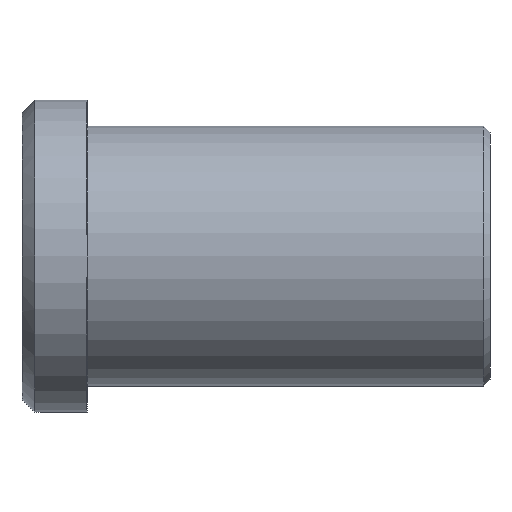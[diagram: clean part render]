
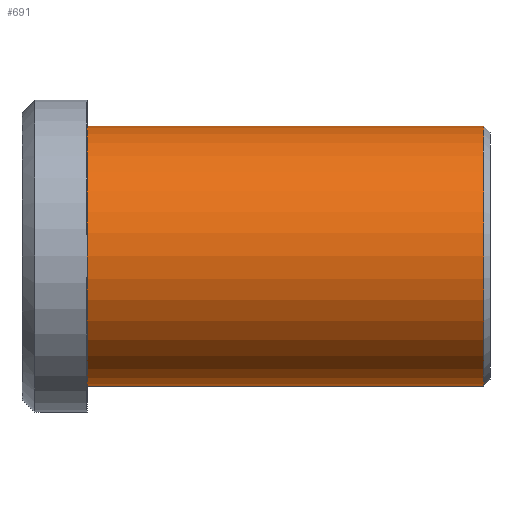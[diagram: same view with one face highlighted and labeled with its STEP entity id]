
A CAD part, front view. The second image highlights one B-rep face of the part: STEP entity #691.
In plain terms, the highlighted cylindrical face has radius 10 mm (diameter 20 mm), a partial arc.
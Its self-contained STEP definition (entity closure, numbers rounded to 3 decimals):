
#501=CARTESIAN_POINT('Vertex',(0.,0.,-10.)) ;
#506=CARTESIAN_POINT('Axis2P3D Location',(0.,0.,0.)) ;
#510=CARTESIAN_POINT('Vertex',(0.,-10.,0.)) ;
#513=CARTESIAN_POINT('Axis2P3D Location',(0.,0.,0.)) ;
#517=CARTESIAN_POINT('Vertex',(0.,0.,10.)) ;
#631=CARTESIAN_POINT('Line Origine',(31.,0.,10.)) ;
#635=CARTESIAN_POINT('Vertex',(30.5,0.,10.)) ;
#649=CARTESIAN_POINT('Vertex',(30.5,0.,-10.)) ;
#652=CARTESIAN_POINT('Line Origine',(31.,0.,-10.)) ;
#666=CARTESIAN_POINT('Axis2P3D Location',(31.,0.,0.)) ;
#671=CARTESIAN_POINT('Axis2P3D Location',(30.5,0.,0.)) ;
#675=CARTESIAN_POINT('Vertex',(30.5,-10.,0.)) ;
#678=CARTESIAN_POINT('Axis2P3D Location',(30.5,0.,0.)) ;
#507=DIRECTION('Axis2P3D Direction',(1.,0.,-0.)) ;
#514=DIRECTION('Axis2P3D Direction',(1.,0.,-0.)) ;
#632=DIRECTION('Vector Direction',(-1.,0.,0.)) ;
#653=DIRECTION('Vector Direction',(-1.,0.,0.)) ;
#667=DIRECTION('Axis2P3D Direction',(-1.,-0.,-0.)) ;
#668=DIRECTION('Axis2P3D XDirection',(0.,0.,-1.)) ;
#672=DIRECTION('Axis2P3D Direction',(-1.,-0.,-0.)) ;
#679=DIRECTION('Axis2P3D Direction',(-1.,-0.,-0.)) ;
#508=AXIS2_PLACEMENT_3D('Circle Axis2P3D',#506,#507,$) ;
#515=AXIS2_PLACEMENT_3D('Circle Axis2P3D',#513,#514,$) ;
#669=AXIS2_PLACEMENT_3D('Cylinder Axis2P3D',#666,#667,#668) ;
#673=AXIS2_PLACEMENT_3D('Circle Axis2P3D',#671,#672,$) ;
#680=AXIS2_PLACEMENT_3D('Circle Axis2P3D',#678,#679,$) ;
#684=ORIENTED_EDGE('',*,*,#656,.T.) ;
#685=ORIENTED_EDGE('',*,*,#677,.F.) ;
#686=ORIENTED_EDGE('',*,*,#682,.F.) ;
#687=ORIENTED_EDGE('',*,*,#637,.T.) ;
#688=ORIENTED_EDGE('',*,*,#519,.T.) ;
#689=ORIENTED_EDGE('',*,*,#512,.T.) ;
#633=VECTOR('Line Direction',#632,1.) ;
#654=VECTOR('Line Direction',#653,1.) ;
#691=ADVANCED_FACE('353-14X36',(#690),#670,.T.) ;
#509=CIRCLE('generated circle',#508,10.) ;
#516=CIRCLE('generated circle',#515,10.) ;
#674=CIRCLE('generated circle',#673,10.) ;
#681=CIRCLE('generated circle',#680,10.) ;
#670=CYLINDRICAL_SURFACE('generated cylinder',#669,10.) ;
#512=EDGE_CURVE('',#511,#502,#509,.T.) ;
#519=EDGE_CURVE('',#518,#511,#516,.T.) ;
#637=EDGE_CURVE('',#636,#518,#634,.T.) ;
#656=EDGE_CURVE('',#502,#650,#655,.F.) ;
#677=EDGE_CURVE('',#676,#650,#674,.F.) ;
#682=EDGE_CURVE('',#636,#676,#681,.F.) ;
#683=EDGE_LOOP('',(#684,#685,#686,#687,#688,#689)) ;
#690=FACE_OUTER_BOUND('',#683,.T.) ;
#634=LINE('Line',#631,#633) ;
#655=LINE('Line',#652,#654) ;
#502=VERTEX_POINT('',#501) ;
#511=VERTEX_POINT('',#510) ;
#518=VERTEX_POINT('',#517) ;
#636=VERTEX_POINT('',#635) ;
#650=VERTEX_POINT('',#649) ;
#676=VERTEX_POINT('',#675) ;
